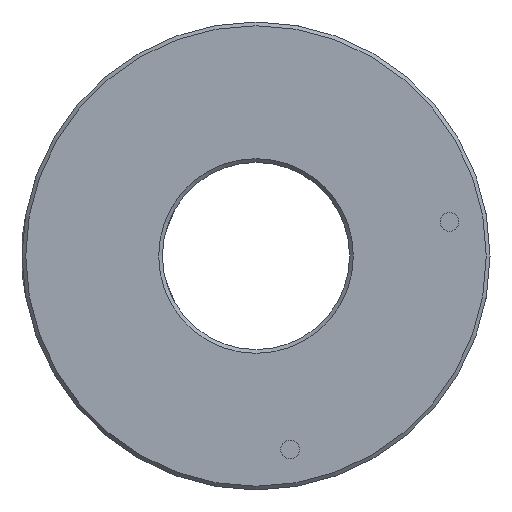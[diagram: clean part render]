
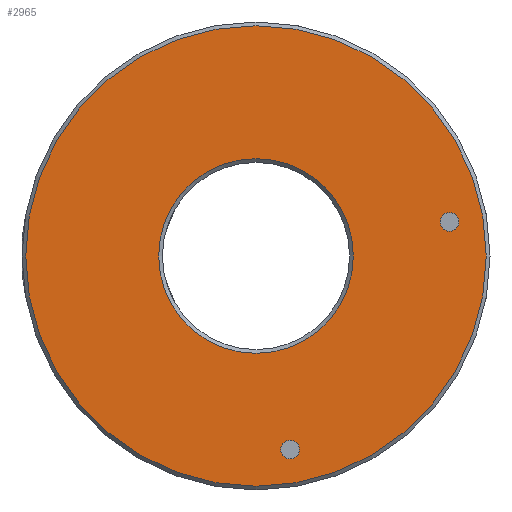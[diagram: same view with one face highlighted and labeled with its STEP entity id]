
A CAD part, front view. The second image highlights one B-rep face of the part: STEP entity #2965.
In plain terms, the highlighted planar face has unit normal (0, -1, 0) as drawn and (0, 1, 0) by its records, which use the part's own axes.
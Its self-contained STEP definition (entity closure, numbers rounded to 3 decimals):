
#166 = FACE_OUTER_BOUND ( 'NONE', #4329, .T. ) ;
#179 = EDGE_CURVE ( 'NONE', #868, #868, #3731, .T. ) ;
#207 = CARTESIAN_POINT ( 'NONE',  ( -10.5, 13., 0.5 ) ) ;
#332 = DIRECTION ( 'NONE',  ( 0., 0., 1. ) ) ;
#404 = ORIENTED_EDGE ( 'NONE', *, *, #179, .F. ) ;
#470 = DIRECTION ( 'NONE',  ( 0., -1., 0. ) ) ;
#656 = VERTEX_POINT ( 'NONE', #674 ) ;
#674 = CARTESIAN_POINT ( 'NONE',  ( 0., 13., -12.3 ) ) ;
#760 = CIRCLE ( 'NONE', #1826, 12.3 ) ;
#868 = VERTEX_POINT ( 'NONE', #3990 ) ;
#906 = CARTESIAN_POINT ( 'NONE',  ( 0., 13., 0. ) ) ;
#956 = CIRCLE ( 'NONE', #3557, 0.5 ) ;
#1028 = EDGE_CURVE ( 'NONE', #1897, #1897, #956, .T. ) ;
#1158 = DIRECTION ( 'NONE',  ( 0., 0., -1. ) ) ;
#1193 = CARTESIAN_POINT ( 'NONE',  ( -5., 13., 0. ) ) ;
#1215 = FACE_BOUND ( 'NONE', #2733, .T. ) ;
#1380 = CARTESIAN_POINT ( 'NONE',  ( 0., 13., -5.2 ) ) ;
#1610 = AXIS2_PLACEMENT_3D ( 'NONE', #1193, #3903, #2568 ) ;
#1703 = CARTESIAN_POINT ( 'NONE',  ( 0., 13., 0. ) ) ;
#1781 = EDGE_LOOP ( 'NONE', ( #3226 ) ) ;
#1805 = EDGE_CURVE ( 'NONE', #656, #656, #760, .T. ) ;
#1826 = AXIS2_PLACEMENT_3D ( 'NONE', #1703, #4071, #3746 ) ;
#1863 = EDGE_LOOP ( 'NONE', ( #3979 ) ) ;
#1897 = VERTEX_POINT ( 'NONE', #207 ) ;
#1908 = AXIS2_PLACEMENT_3D ( 'NONE', #4043, #2772, #332 ) ;
#1948 = EDGE_CURVE ( 'NONE', #2412, #2412, #2113, .T. ) ;
#1974 = AXIS2_PLACEMENT_3D ( 'NONE', #906, #470, #1158 ) ;
#2113 = CIRCLE ( 'NONE', #1974, 5.2 ) ;
#2143 = FACE_BOUND ( 'NONE', #1781, .T. ) ;
#2336 = ORIENTED_EDGE ( 'NONE', *, *, #1805, .T. ) ;
#2412 = VERTEX_POINT ( 'NONE', #1380 ) ;
#2568 = DIRECTION ( 'NONE',  ( 0., 0., -1. ) ) ;
#2733 = EDGE_LOOP ( 'NONE', ( #404 ) ) ;
#2772 = DIRECTION ( 'NONE',  ( 0., 1., 0. ) ) ;
#2965 = ADVANCED_FACE ( 'NONE', ( #3455, #1215, #166, #2143 ), #4206, .F. ) ;
#3226 = ORIENTED_EDGE ( 'NONE', *, *, #1948, .T. ) ;
#3397 = DIRECTION ( 'NONE',  ( 0., 1., 0. ) ) ;
#3455 = FACE_BOUND ( 'NONE', #1863, .T. ) ;
#3557 = AXIS2_PLACEMENT_3D ( 'NONE', #3732, #3397, #3799 ) ;
#3731 = CIRCLE ( 'NONE', #1908, 0.5 ) ;
#3732 = CARTESIAN_POINT ( 'NONE',  ( -10.5, 13., 0. ) ) ;
#3746 = DIRECTION ( 'NONE',  ( 0., 0., -1. ) ) ;
#3799 = DIRECTION ( 'NONE',  ( 0., 0., 1. ) ) ;
#3903 = DIRECTION ( 'NONE',  ( 0., -1., 0. ) ) ;
#3979 = ORIENTED_EDGE ( 'NONE', *, *, #1028, .F. ) ;
#3990 = CARTESIAN_POINT ( 'NONE',  ( 0., 13., -10. ) ) ;
#4043 = CARTESIAN_POINT ( 'NONE',  ( 0., 13., -10.5 ) ) ;
#4071 = DIRECTION ( 'NONE',  ( 0., 1., 0. ) ) ;
#4206 = PLANE ( 'NONE',  #1610 ) ;
#4329 = EDGE_LOOP ( 'NONE', ( #2336 ) ) ;
